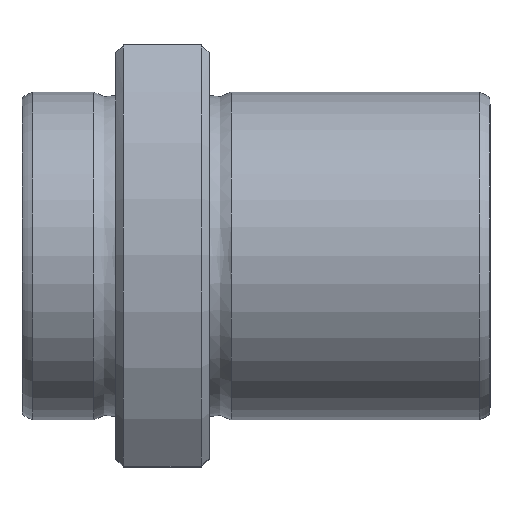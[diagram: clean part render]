
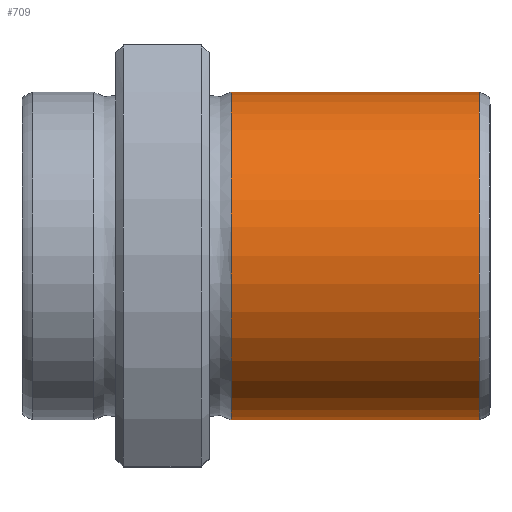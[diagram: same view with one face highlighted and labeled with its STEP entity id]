
A CAD part, top view. The second image highlights one B-rep face of the part: STEP entity #709.
In plain terms, the highlighted cylindrical face has radius 10.5 mm (diameter 21 mm), a full revolution.
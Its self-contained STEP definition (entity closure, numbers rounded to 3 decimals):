
#675=CARTESIAN_POINT('',(29.304,0.0,10.5));
#676=VERTEX_POINT('',#675);
#677=CARTESIAN_POINT('',(29.304,0.0,0.0));
#678=DIRECTION('',(-1.0,0.0,0.0));
#679=DIRECTION('',(0.0,0.0,1.0));
#680=AXIS2_PLACEMENT_3D('',#677,#678,#679);
#681=CIRCLE('',#680,10.5);
#682=EDGE_CURVE('',#676,#676,#681,.T.);
#690=CARTESIAN_POINT('',(21.352,0.0,0.0));
#691=DIRECTION('',(-1.0,0.0,0.0));
#692=DIRECTION('',(0.0,0.0,1.0));
#693=AXIS2_PLACEMENT_3D('',#690,#691,#692);
#694=CYLINDRICAL_SURFACE('',#693,10.5);
#695=CARTESIAN_POINT('',(13.4,0.0,10.5));
#696=VERTEX_POINT('',#695);
#697=CARTESIAN_POINT('',(13.4,0.0,0.0));
#698=DIRECTION('',(-1.0,0.0,0.0));
#699=DIRECTION('',(0.0,0.0,1.0));
#700=AXIS2_PLACEMENT_3D('',#697,#698,#699);
#701=CIRCLE('',#700,10.5);
#702=EDGE_CURVE('',#696,#696,#701,.T.);
#703=ORIENTED_EDGE('',*,*,#702,.F.);
#704=EDGE_LOOP('',(#703));
#705=FACE_OUTER_BOUND('',#704,.T.);
#706=ORIENTED_EDGE('',*,*,#682,.T.);
#707=EDGE_LOOP('',(#706));
#708=FACE_BOUND('',#707,.T.);
#709=ADVANCED_FACE('',(#705,#708),#694,.T.);
